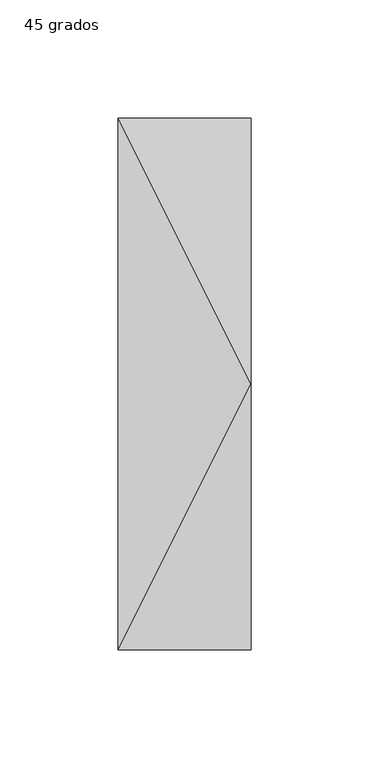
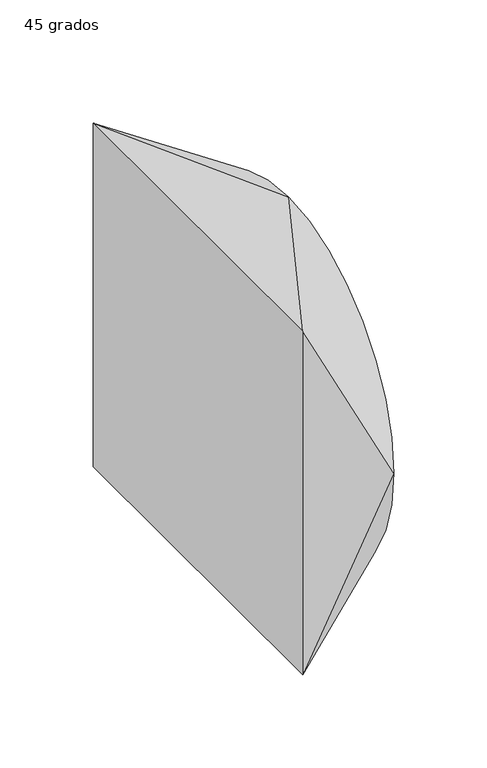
"""IFC4 building model written with IfcOpenShell, lengths in millimetres: duct fitting geometry, M_Transición de rectangular a redondo - Ángulo : 45 grados."""

from ifc_helpers import new_model, si_unit, frame, origin, place, context, project, spatial, circle_curve, source, transform, mapped, element, save
from ifc_brep_helpers import plane_surface, spline_surface, advanced_brep


def duct_fitting_45_grados_17163ae1(model_context):
    return source(origin(), model_context, "Body", "AdvancedBrep", [
        advanced_brep(
        [(56.25, 0.0, 112.5), (56.25, -112.5, 0.0), (56.25, 0.0, -112.5), (56.25, 112.5, 0.0), (0.0, -112.5, 112.5), (0.0, 112.5, 112.5), (0.0, 112.5, -112.5), (0.0, -112.5, -112.5)],
        [
            (0, 1, circle_curve(frame((56.25, 0.0, 0.0), z_axis=(1.0, 0.0, 0.0), x_axis=(0.0, 1.0, 0.0)), 112.5)),
            (1, 2, circle_curve(frame((56.25, 0.0, 0.0), z_axis=(1.0, 0.0, 0.0), x_axis=(0.0, 1.0, 0.0)), 112.5)),
            (2, 3, circle_curve(frame((56.25, 0.0, 0.0), z_axis=(1.0, 0.0, 0.0), x_axis=(0.0, 1.0, 0.0)), 112.5)),
            (3, 0, circle_curve(frame((56.25, 0.0, 0.0), z_axis=(1.0, 0.0, 0.0), x_axis=(0.0, 1.0, 0.0)), 112.5)),
            (4, 5),
            (5, 6),
            (6, 7),
            (7, 4),
            (0, 4),
            (4, 1),
            (7, 1),
            (7, 2),
            (6, 2),
            (6, 3),
            (5, 3),
            (5, 0),
        ],
        [
            plane_surface(frame((56.25, 0.0, 0.0), z_axis=(1.0, 0.0, 0.0), x_axis=(0.0, 0.0, -1.0))),
            plane_surface(frame((0.0, 0.0, 0.0), z_axis=(-1.0, 0.0, 0.0), x_axis=(0.0, 0.0, -1.0))),
            spline_surface(2, 1, [[(0.0, -112.5, 112.5), (56.25, 0.0, 112.5)], [(0.0, -112.5, 112.5), (56.25, -112.5, 112.5)], [(0.0, -112.5, 112.5), (56.25, -112.5, 0.0)]], [3, 3], [2, 2], [0.0, 1.0], [0.0, 1.0], weights=[[1.0, 1.0], [0.7071067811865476, 0.7071067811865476], [1.0, 1.0]]),
            plane_surface(frame((0.0, -112.5, 0.0), z_axis=(0.0, -1.0, 0.0), x_axis=(0.0, 0.0, -1.0))),
            spline_surface(2, 1, [[(0.0, -112.5, -112.5), (56.25, -112.5, 0.0)], [(0.0, -112.5, -112.5), (56.25, -112.5, -112.5)], [(0.0, -112.5, -112.5), (56.25, 0.0, -112.5)]], [3, 3], [2, 2], [0.0, 1.0], [0.0, 1.0], weights=[[1.0, 1.0], [0.7071067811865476, 0.7071067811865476], [1.0, 1.0]]),
            plane_surface(frame((0.0, 0.0, -112.5), z_axis=(0.0, 0.0, -1.0), x_axis=(0.0, 1.0, 0.0))),
            spline_surface(2, 1, [[(0.0, 112.5, -112.5), (56.25, 0.0, -112.5)], [(0.0, 112.5, -112.5), (56.25, 112.5, -112.5)], [(0.0, 112.5, -112.5), (56.25, 112.5, 0.0)]], [3, 3], [2, 2], [0.0, 1.0], [0.0, 1.0], weights=[[1.0, 1.0], [0.7071067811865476, 0.7071067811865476], [1.0, 1.0]]),
            plane_surface(frame((0.0, 112.5, 0.0), z_axis=(0.0, 1.0, 0.0), x_axis=(0.0, 0.0, 1.0))),
            spline_surface(2, 1, [[(0.0, 112.5, 112.5), (56.25, 112.5, 0.0)], [(0.0, 112.5, 112.5), (56.25, 112.5, 112.5)], [(0.0, 112.5, 112.5), (56.25, 0.0, 112.5)]], [3, 3], [2, 2], [0.0, 1.0], [0.0, 1.0], weights=[[1.0, 1.0], [0.7071067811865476, 0.7071067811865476], [1.0, 1.0]]),
            plane_surface(frame((0.0, 0.0, 112.5), z_axis=(0.0, 0.0, 1.0), x_axis=(0.0, -1.0, 0.0))),
        ],
        [
            (0, [[1, 2, 3, 4]]),
            (1, [[5, 6, 7, 8]]),
            (2, [[-1, 9, 10]]),
            (3, [[-8, 11, -10]]),
            (4, [[-2, -11, 12]]),
            (5, [[-7, 13, -12]]),
            (6, [[-3, -13, 14]]),
            (7, [[-6, 15, -14]]),
            (8, [[-4, -15, 16]]),
            (9, [[-5, -9, -16]]),
        ],
    ),
    ])


if __name__ == "__main__":
    model = new_model("IFC4")
    model_context = context("Model", 3, world=origin())
    ifc_project = project(units=[si_unit("LENGTHUNIT", "METRE", prefix="MILLI")], contexts=[model_context])
    site = spatial("IfcSite", under=ifc_project)
    building = spatial("IfcBuilding", under=site)
    placement = place(None, origin())
    duct_fitting_45_grados_shape = duct_fitting_45_grados_17163ae1(model_context)
    element("IfcDuctFitting", 1, ObjectType="M_Transición de rectangular a redondo - Ángulo : 45 grados", at=placement, inside=building, context=model_context, shape_type="MappedRepresentation", body=[
        mapped(duct_fitting_45_grados_shape, transform((0.0, 0.0, 0.0), x_axis=(1.0, 0.0, 0.0), y_axis=(0.0, 1.0, 0.0), z_axis=(0.0, 0.0, 1.0))),
    ])
    save(model, "model.ifc")
